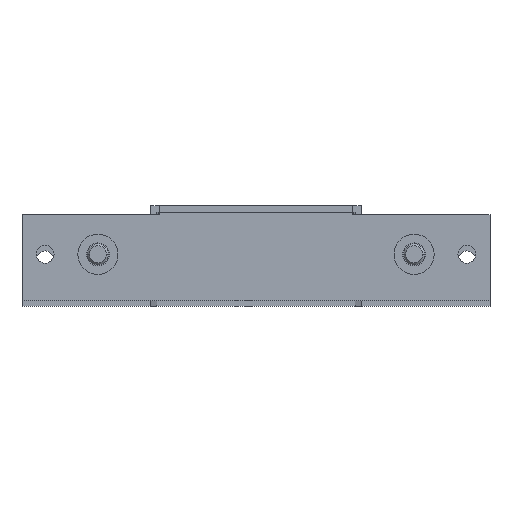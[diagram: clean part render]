
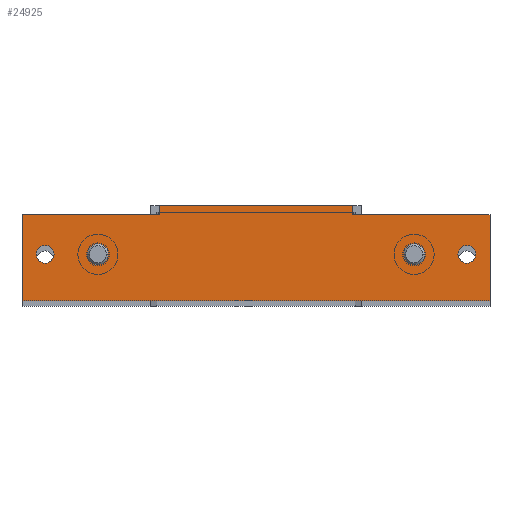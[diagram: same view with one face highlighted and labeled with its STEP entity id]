
A CAD part, top view. The second image highlights one B-rep face of the part: STEP entity #24925.
In plain terms, the highlighted planar face has unit normal (0, 0, 1).
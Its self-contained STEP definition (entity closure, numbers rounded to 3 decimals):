
#2578 = VERTEX_POINT('',#2579);
#2579 = CARTESIAN_POINT('',(-47.9,-11.5,373.5));
#2585 = EDGE_CURVE('',#2586,#2578,#2588,.T.);
#2586 = VERTEX_POINT('',#2587);
#2587 = CARTESIAN_POINT('',(-52.1,-11.5,373.5));
#2588 = CIRCLE('',#2589,2.1);
#2589 = AXIS2_PLACEMENT_3D('',#2590,#2591,#2592);
#2590 = CARTESIAN_POINT('',(-50.,-11.5,373.5));
#2591 = DIRECTION('',(0.,0.,1.));
#2592 = DIRECTION('',(1.,0.,-0.));
#2620 = VERTEX_POINT('',#2621);
#2621 = CARTESIAN_POINT('',(39.6,-11.5,373.5));
#2627 = EDGE_CURVE('',#2628,#2620,#2630,.T.);
#2628 = VERTEX_POINT('',#2629);
#2629 = CARTESIAN_POINT('',(35.4,-11.5,373.5));
#2630 = CIRCLE('',#2631,2.1);
#2631 = AXIS2_PLACEMENT_3D('',#2632,#2633,#2634);
#2632 = CARTESIAN_POINT('',(37.5,-11.5,373.5));
#2633 = DIRECTION('',(0.,0.,1.));
#2634 = DIRECTION('',(-1.,0.,0.));
#2662 = VERTEX_POINT('',#2663);
#2663 = CARTESIAN_POINT('',(52.1,-11.5,373.5));
#2669 = EDGE_CURVE('',#2670,#2662,#2672,.T.);
#2670 = VERTEX_POINT('',#2671);
#2671 = CARTESIAN_POINT('',(47.9,-11.5,373.5));
#2672 = CIRCLE('',#2673,2.1);
#2673 = AXIS2_PLACEMENT_3D('',#2674,#2675,#2676);
#2674 = CARTESIAN_POINT('',(50.,-11.5,373.5));
#2675 = DIRECTION('',(0.,0.,1.));
#2676 = DIRECTION('',(-1.,0.,0.));
#2704 = VERTEX_POINT('',#2705);
#2705 = CARTESIAN_POINT('',(-35.4,-11.5,373.5));
#2711 = EDGE_CURVE('',#2712,#2704,#2714,.T.);
#2712 = VERTEX_POINT('',#2713);
#2713 = CARTESIAN_POINT('',(-39.6,-11.5,373.5));
#2714 = CIRCLE('',#2715,2.1);
#2715 = AXIS2_PLACEMENT_3D('',#2716,#2717,#2718);
#2716 = CARTESIAN_POINT('',(-37.5,-11.5,373.5));
#2717 = DIRECTION('',(0.,0.,1.));
#2718 = DIRECTION('',(1.,0.,-0.));
#10355 = VERTEX_POINT('',#10356);
#10356 = CARTESIAN_POINT('',(-22.9,0.,373.5));
#10362 = EDGE_CURVE('',#10363,#10355,#10365,.T.);
#10363 = VERTEX_POINT('',#10364);
#10364 = CARTESIAN_POINT('',(22.9,0.,373.5));
#10365 = LINE('',#10366,#10367);
#10366 = CARTESIAN_POINT('',(-25.,0.,373.5));
#10367 = VECTOR('',#10368,1.);
#10368 = DIRECTION('',(-1.,0.,0.));
#24866 = VERTEX_POINT('',#24867);
#24867 = CARTESIAN_POINT('',(22.9,-2.1,373.5));
#24882 = EDGE_CURVE('',#24866,#10363,#24883,.T.);
#24883 = LINE('',#24884,#24885);
#24884 = CARTESIAN_POINT('',(22.9,-2.1,373.5));
#24885 = VECTOR('',#24886,1.);
#24886 = DIRECTION('',(-0.,1.,0.));
#24906 = VERTEX_POINT('',#24907);
#24907 = CARTESIAN_POINT('',(-22.9,-2.1,373.5));
#24913 = EDGE_CURVE('',#24906,#10355,#24914,.T.);
#24914 = LINE('',#24915,#24916);
#24915 = CARTESIAN_POINT('',(-22.9,0.,373.5));
#24916 = VECTOR('',#24917,1.);
#24917 = DIRECTION('',(0.,1.,0.));
#24925 = ADVANCED_FACE('',(#24926,#24936,#24946,#24956,#24966),#25009,
  .T.);
#24926 = FACE_BOUND('',#24927,.T.);
#24927 = EDGE_LOOP('',(#24928,#24935));
#24928 = ORIENTED_EDGE('',*,*,#24929,.F.);
#24929 = EDGE_CURVE('',#2578,#2586,#24930,.T.);
#24930 = CIRCLE('',#24931,2.1);
#24931 = AXIS2_PLACEMENT_3D('',#24932,#24933,#24934);
#24932 = CARTESIAN_POINT('',(-50.,-11.5,373.5));
#24933 = DIRECTION('',(0.,0.,1.));
#24934 = DIRECTION('',(1.,0.,-0.));
#24935 = ORIENTED_EDGE('',*,*,#2585,.F.);
#24936 = FACE_BOUND('',#24937,.T.);
#24937 = EDGE_LOOP('',(#24938,#24945));
#24938 = ORIENTED_EDGE('',*,*,#24939,.F.);
#24939 = EDGE_CURVE('',#2620,#2628,#24940,.T.);
#24940 = CIRCLE('',#24941,2.1);
#24941 = AXIS2_PLACEMENT_3D('',#24942,#24943,#24944);
#24942 = CARTESIAN_POINT('',(37.5,-11.5,373.5));
#24943 = DIRECTION('',(0.,0.,1.));
#24944 = DIRECTION('',(-1.,0.,0.));
#24945 = ORIENTED_EDGE('',*,*,#2627,.F.);
#24946 = FACE_BOUND('',#24947,.T.);
#24947 = EDGE_LOOP('',(#24948,#24955));
#24948 = ORIENTED_EDGE('',*,*,#24949,.F.);
#24949 = EDGE_CURVE('',#2662,#2670,#24950,.T.);
#24950 = CIRCLE('',#24951,2.1);
#24951 = AXIS2_PLACEMENT_3D('',#24952,#24953,#24954);
#24952 = CARTESIAN_POINT('',(50.,-11.5,373.5));
#24953 = DIRECTION('',(0.,0.,1.));
#24954 = DIRECTION('',(-1.,0.,0.));
#24955 = ORIENTED_EDGE('',*,*,#2669,.F.);
#24956 = FACE_BOUND('',#24957,.T.);
#24957 = EDGE_LOOP('',(#24958,#24965));
#24958 = ORIENTED_EDGE('',*,*,#24959,.F.);
#24959 = EDGE_CURVE('',#2704,#2712,#24960,.T.);
#24960 = CIRCLE('',#24961,2.1);
#24961 = AXIS2_PLACEMENT_3D('',#24962,#24963,#24964);
#24962 = CARTESIAN_POINT('',(-37.5,-11.5,373.5));
#24963 = DIRECTION('',(0.,0.,1.));
#24964 = DIRECTION('',(1.,0.,-0.));
#24965 = ORIENTED_EDGE('',*,*,#2711,.F.);
#24966 = FACE_BOUND('',#24967,.T.);
#24967 = EDGE_LOOP('',(#24968,#24978,#24986,#24992,#24993,#24994,#24995,
    #25003));
#24968 = ORIENTED_EDGE('',*,*,#24969,.F.);
#24969 = EDGE_CURVE('',#24970,#24972,#24974,.T.);
#24970 = VERTEX_POINT('',#24971);
#24971 = CARTESIAN_POINT('',(55.5,-22.5,373.5));
#24972 = VERTEX_POINT('',#24973);
#24973 = CARTESIAN_POINT('',(-55.5,-22.5,373.5));
#24974 = LINE('',#24975,#24976);
#24975 = CARTESIAN_POINT('',(-22.9,-22.5,373.5));
#24976 = VECTOR('',#24977,1.);
#24977 = DIRECTION('',(-1.,0.,-0.));
#24978 = ORIENTED_EDGE('',*,*,#24979,.F.);
#24979 = EDGE_CURVE('',#24980,#24970,#24982,.T.);
#24980 = VERTEX_POINT('',#24981);
#24981 = CARTESIAN_POINT('',(55.5,-2.1,373.5));
#24982 = LINE('',#24983,#24984);
#24983 = CARTESIAN_POINT('',(55.5,-19.5,373.5));
#24984 = VECTOR('',#24985,1.);
#24985 = DIRECTION('',(0.,-1.,0.));
#24986 = ORIENTED_EDGE('',*,*,#24987,.F.);
#24987 = EDGE_CURVE('',#24866,#24980,#24988,.T.);
#24988 = LINE('',#24989,#24990);
#24989 = CARTESIAN_POINT('',(22.9,-2.1,373.5));
#24990 = VECTOR('',#24991,1.);
#24991 = DIRECTION('',(1.,0.,0.));
#24992 = ORIENTED_EDGE('',*,*,#24882,.T.);
#24993 = ORIENTED_EDGE('',*,*,#10362,.T.);
#24994 = ORIENTED_EDGE('',*,*,#24913,.F.);
#24995 = ORIENTED_EDGE('',*,*,#24996,.T.);
#24996 = EDGE_CURVE('',#24906,#24997,#24999,.T.);
#24997 = VERTEX_POINT('',#24998);
#24998 = CARTESIAN_POINT('',(-55.5,-2.1,373.5));
#24999 = LINE('',#25000,#25001);
#25000 = CARTESIAN_POINT('',(-22.9,-2.1,373.5));
#25001 = VECTOR('',#25002,1.);
#25002 = DIRECTION('',(-1.,0.,0.));
#25003 = ORIENTED_EDGE('',*,*,#25004,.T.);
#25004 = EDGE_CURVE('',#24997,#24972,#25005,.T.);
#25005 = LINE('',#25006,#25007);
#25006 = CARTESIAN_POINT('',(-55.5,-19.5,373.5));
#25007 = VECTOR('',#25008,1.);
#25008 = DIRECTION('',(0.,-1.,-0.));
#25009 = PLANE('',#25010);
#25010 = AXIS2_PLACEMENT_3D('',#25011,#25012,#25013);
#25011 = CARTESIAN_POINT('',(0.,0.,
    373.5));
#25012 = DIRECTION('',(0.,0.,1.));
#25013 = DIRECTION('',(0.,-1.,0.));
